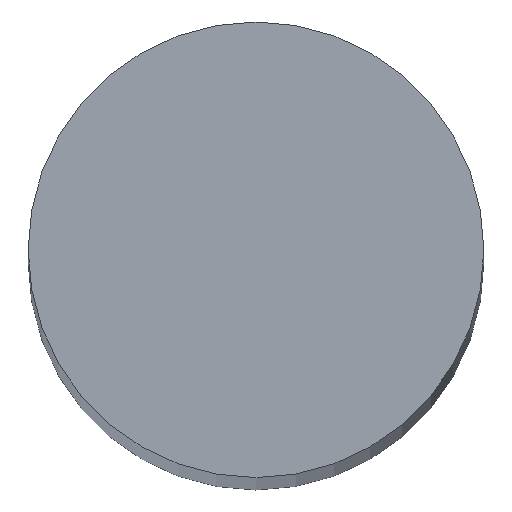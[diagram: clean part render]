
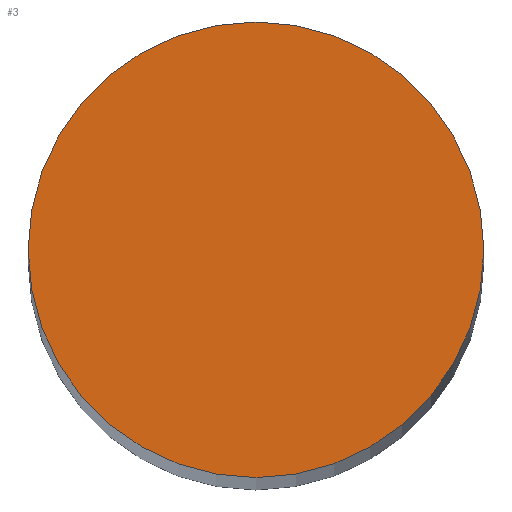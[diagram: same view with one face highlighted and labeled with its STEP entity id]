
A CAD part, top view. The second image highlights one B-rep face of the part: STEP entity #3.
In plain terms, the highlighted planar face has unit normal (0, 0, 1).
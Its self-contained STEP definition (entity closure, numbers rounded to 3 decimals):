
#3 = ADVANCED_FACE ( 'NONE', ( #17 ), #83, .T. ) ;
#8 = ORIENTED_EDGE ( 'NONE', *, *, #72, .T. ) ;
#16 = EDGE_LOOP ( 'NONE', ( #47, #8 ) ) ;
#17 = FACE_OUTER_BOUND ( 'NONE', #16, .T. ) ;
#35 = CIRCLE ( 'NONE', #64, 6. ) ;
#37 = CIRCLE ( 'NONE', #70, 6. ) ;
#47 = ORIENTED_EDGE ( 'NONE', *, *, #74, .T. ) ;
#59 = AXIS2_PLACEMENT_3D ( 'NONE', #105, #99, #98 ) ;
#64 = AXIS2_PLACEMENT_3D ( 'NONE', #136, #134, #133 ) ;
#70 = AXIS2_PLACEMENT_3D ( 'NONE', #86, #138, #137 ) ;
#72 = EDGE_CURVE ( 'NONE', #81, #78, #37, .T. ) ;
#74 = EDGE_CURVE ( 'NONE', #78, #81, #35, .T. ) ;
#78 = VERTEX_POINT ( 'NONE', #112 ) ;
#81 = VERTEX_POINT ( 'NONE', #132 ) ;
#83 = PLANE ( 'NONE',  #59 ) ;
#86 = CARTESIAN_POINT ( 'NONE',  ( 0., 0., 93.5 ) ) ;
#98 = DIRECTION ( 'NONE',  ( 1., 0., 0. ) ) ;
#99 = DIRECTION ( 'NONE',  ( 0., 0., 1. ) ) ;
#105 = CARTESIAN_POINT ( 'NONE',  ( 0., 0., 93.5 ) ) ;
#112 = CARTESIAN_POINT ( 'NONE',  ( -6., 0., 93.5 ) ) ;
#132 = CARTESIAN_POINT ( 'NONE',  ( 6., 0., 93.5 ) ) ;
#133 = DIRECTION ( 'NONE',  ( 1., 0., 0. ) ) ;
#134 = DIRECTION ( 'NONE',  ( 0., 0., 1. ) ) ;
#136 = CARTESIAN_POINT ( 'NONE',  ( 0., 0., 93.5 ) ) ;
#137 = DIRECTION ( 'NONE',  ( 1., 0., 0. ) ) ;
#138 = DIRECTION ( 'NONE',  ( 0., 0., 1. ) ) ;
